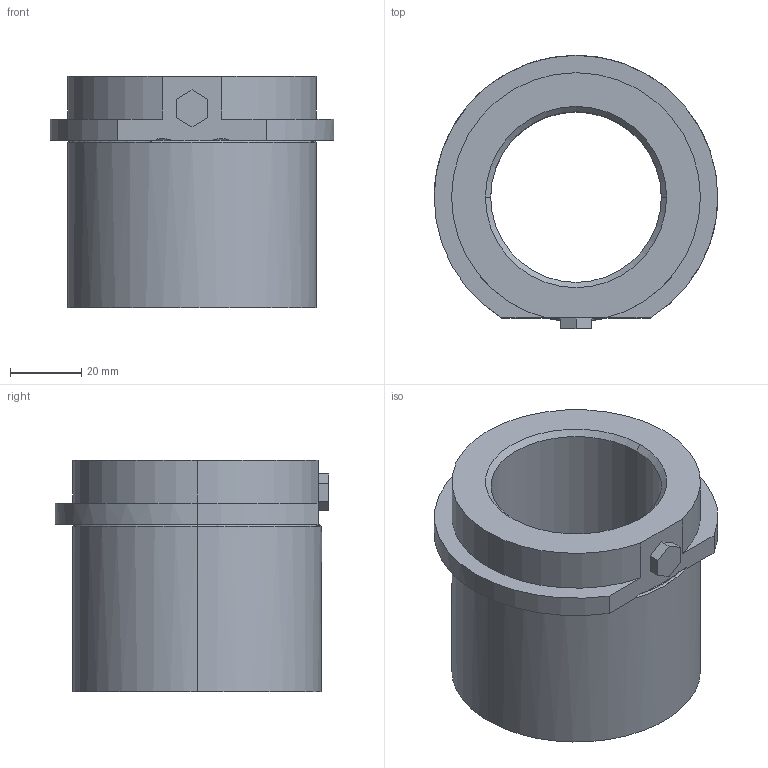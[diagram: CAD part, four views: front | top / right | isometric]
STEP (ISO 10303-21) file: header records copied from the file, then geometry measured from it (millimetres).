
FILE_DESCRIPTION(('CATIA V5 STEP Exchange'),'2;1');
FILE_NAME('C:\Users\Utente\Desktop\IO LAVORO\3D X SITO CF\X SITO\740\740-48.stp','2021-01-18T19:31:58+00:00',('none'),('none'),'CATIA Version 5 Release 20 GA (IN-10)','CATIA V5 STEP AP203','none');
FILE_SCHEMA(('CONFIG_CONTROL_DESIGN'));
Length unit declared in the file: millimetre
Products named in the file (1): 740-48
Assembly tree (1 placements, depth 2):
  740-48
    #58
Bounding box: 79.8 x 76.9 x 65 mm (x, y, z)
Volume: 137671.8 mm3; surface area: 30633.6 mm2
Topology: 1 solids, 1 shells, 35 faces, 88 edges, 57 vertices
Faces by surface type: plane 14, cylinder 12, torus 5, cone 4
Entity records: 1328 total; most frequent: CARTESIAN_POINT 466, ORIENTED_EDGE 176, DIRECTION 139, EDGE_CURVE 88, AXIS2_PLACEMENT_3D 63, VERTEX_POINT 57, VECTOR 42, LINE 42
